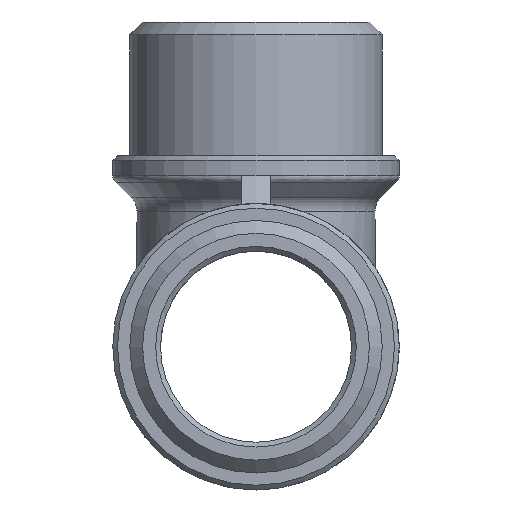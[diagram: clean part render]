
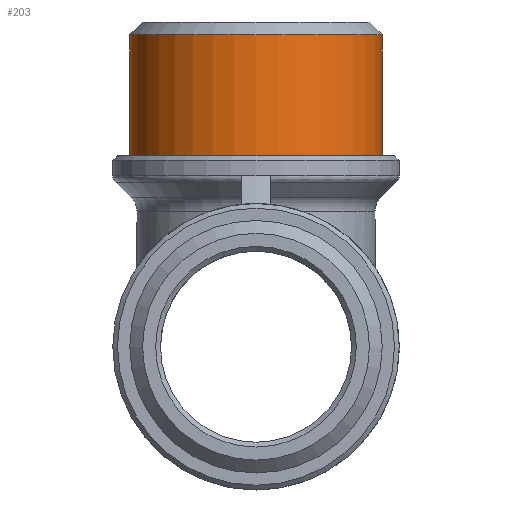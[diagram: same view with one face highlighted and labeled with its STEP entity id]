
A CAD part, front view. The second image highlights one B-rep face of the part: STEP entity #203.
In plain terms, the highlighted cylindrical face has radius 13.22 mm (diameter 26.441 mm), a full revolution.
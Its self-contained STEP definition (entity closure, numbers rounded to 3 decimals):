
#203=ADVANCED_FACE('',(#1293,#1295),#1297,.T.);
#1293=FACE_OUTER_BOUND('',#1294,.T.);
#1294=EDGE_LOOP('',(#2523));
#1295=FACE_OUTER_BOUND('',#1296,.T.);
#1296=EDGE_LOOP('',(#2524));
#1297=CYLINDRICAL_SURFACE('',#1298,13.221);
#1298=AXIS2_PLACEMENT_3D('',#1299,#1300,#1301);
#1299=CARTESIAN_POINT('',(0.,0.,19.));
#1300=DIRECTION('',(0.,0.,1.));
#1301=DIRECTION('',(0.,1.,0.));
#2523=ORIENTED_EDGE('',*,*,#3023,.T.);
#2524=ORIENTED_EDGE('',*,*,#3020,.T.);
#3020=EDGE_CURVE('',#3786,#3786,#3787,.T.);
#3023=EDGE_CURVE('',#3792,#3792,#3793,.T.);
#3786=VERTEX_POINT('',#7409);
#3787=CIRCLE('',#7410,13.221);
#3792=VERTEX_POINT('',#7424);
#3793=CIRCLE('',#7425,13.221);
#7409=CARTESIAN_POINT('',(0.,13.221,20.));
#7410=AXIS2_PLACEMENT_3D('',#7411,#7412,#7413);
#7411=CARTESIAN_POINT('',(0.,0.,20.));
#7412=DIRECTION('',(0.,0.,1.));
#7413=DIRECTION('',(0.,1.,0.));
#7424=CARTESIAN_POINT('',(0.,13.221,32.65));
#7425=AXIS2_PLACEMENT_3D('',#7426,#7427,#7428);
#7426=CARTESIAN_POINT('',(0.,0.,32.65));
#7427=DIRECTION('',(0.,0.,-1.));
#7428=DIRECTION('',(0.,1.,0.));
